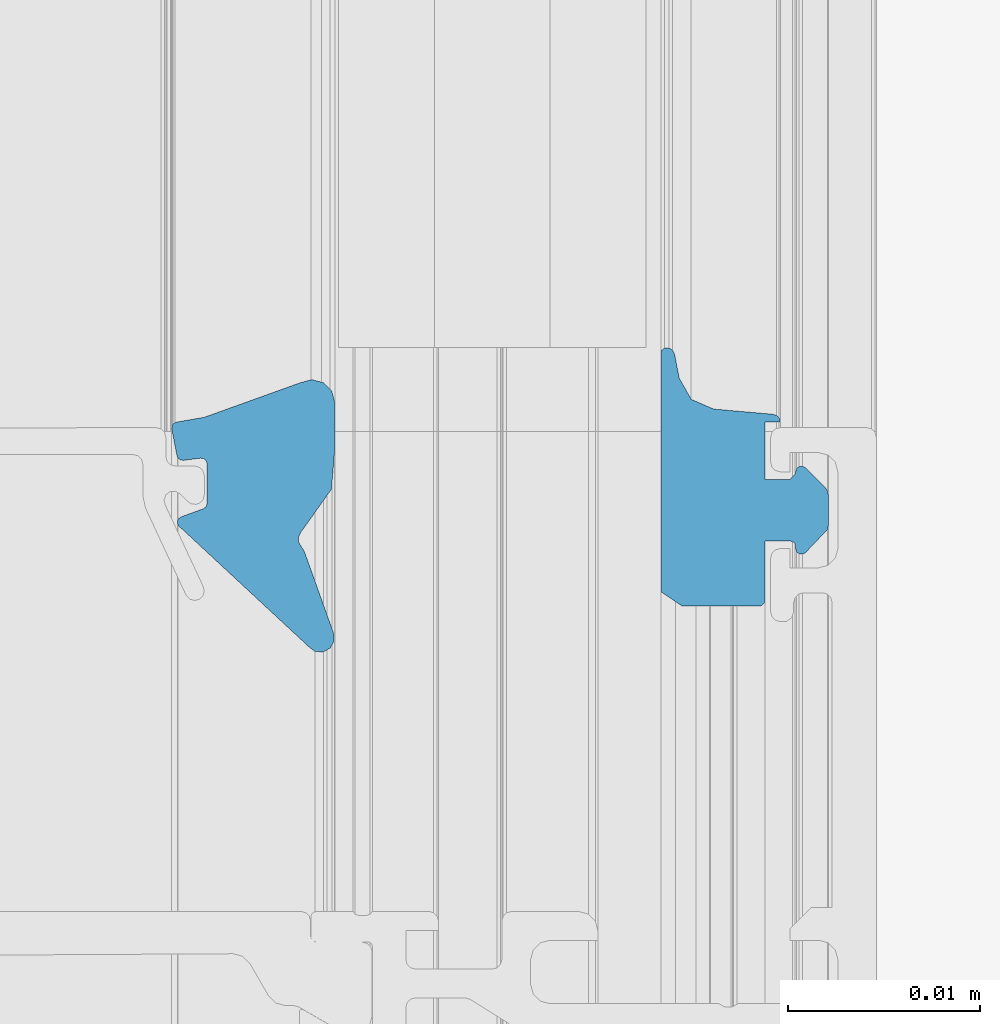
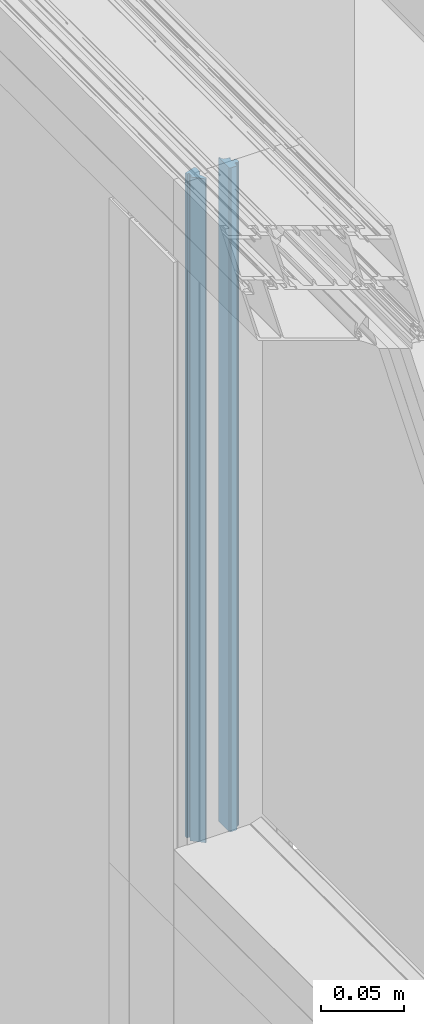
# One storey, part 66 of 89: 1 building element part, 2 elements without a shape of their own.
"""IFC2X3 building model written with IfcOpenShell, lengths in millimetres."""

from ifc_helpers import new_model, entity, si_unit, converted_unit, derived_unit, money_unit, direction, frame, origin_with_axes, place, context, subcontext, project, spatial, faceted_brep, material, type_object, element, aggregate, save


model = new_model("IFC2X3")

# Units and contexts
model_context = context("Model", 3, precision=0.01, world=origin_with_axes(), true_north=direction((0.0, 1.0)))
body_context = subcontext(model_context, "Body", "Model", "MODEL_VIEW")
ifc_project = project(units=[si_unit("LENGTHUNIT", "METRE", prefix="MILLI"), si_unit("AREAUNIT", "SQUARE_METRE"), si_unit("VOLUMEUNIT", "CUBIC_METRE"), converted_unit("PLANEANGLEUNIT", "DEGREE", entity("IfcPlaneAngleMeasure", 0.0174532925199), si_unit("PLANEANGLEUNIT", "RADIAN"), dimensions=[0, 0, 0, 0, 0, 0, 0]), si_unit("SOLIDANGLEUNIT", "STERADIAN"), money_unit("EUR"), converted_unit("TIMEUNIT", "Year", entity("IfcTimeMeasure", 31556926.0), si_unit("TIMEUNIT", "SECOND"), dimensions=[0, 0, 1, 0, 0, 0, 0]), si_unit("MASSUNIT", "GRAM", prefix="KILO"), si_unit("THERMODYNAMICTEMPERATUREUNIT", "DEGREE_CELSIUS"), si_unit("LUMINOUSINTENSITYUNIT", "LUMEN"), si_unit("ENERGYUNIT", "JOULE", prefix="MEGA"), derived_unit("THERMALCONDUCTANCEUNIT", [(si_unit("POWERUNIT", "WATT"), 1), (si_unit("LENGTHUNIT", "METRE"), -1), (si_unit("THERMODYNAMICTEMPERATUREUNIT", "KELVIN"), -1)]), derived_unit("SPECIFICHEATCAPACITYUNIT", [(si_unit("ENERGYUNIT", "JOULE"), 1), (si_unit("MASSUNIT", "GRAM", prefix="KILO"), -1), (si_unit("THERMODYNAMICTEMPERATUREUNIT", "KELVIN"), -1)]), derived_unit("MASSDENSITYUNIT", [(si_unit("MASSUNIT", "GRAM", prefix="KILO"), 1), (si_unit("VOLUMEUNIT", "CUBIC_METRE"), -1)])], contexts=[model_context])

# Site, building, storey
site_placement = place(None, origin_with_axes())
site = spatial("IfcSite", under=ifc_project, at=site_placement, Name="Puškini 31, Narva", CompositionType="ELEMENT")
building_placement = place(site_placement, origin_with_axes())
building = spatial("IfcBuilding", under=site, at=building_placement, Name="Narva Riigigümnaasium", CompositionType="ELEMENT")
storey_placement = place(building_placement, frame((0.0, 0.0, -3300.0), z_axis=(0.0, 0.0, 1.0), x_axis=(1.0, 0.0, 0.0)))
storey = spatial("IfcBuildingStorey", under=building, at=storey_placement, Name="1.korrus -3.3", CompositionType="ELEMENT", Elevation=-3300.0)

# Curtain wall, member, building element part
curtain_wall_type = type_object("IfcCurtainWallType", Name="Curtain Wall Type", PredefinedType="NOTDEFINED")
curtain_wall_placement = place(storey_placement, frame((34855.0104166, 221770.599999, -2.45869391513e-05), z_axis=(0.0, 0.0, 1.0), x_axis=(1.0, 0.0, 0.0)))
curtain_wall = element("IfcCurtainWall", 1, at=curtain_wall_placement, inside=storey, type_object=curtain_wall_type, Name="G-SKLF-08")
member_type = type_object("IfcMemberType", Name="82 x 45", PredefinedType="MULLION")
member_placement = place(curtain_wall_placement, frame((-0.00305436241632, 709.399999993, 2400.00002459), z_axis=(0.0, 0.0, 1.0), x_axis=(4.3055573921e-06, -0.999999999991, 0.0)))
member = element("IfcMember", 2, at=member_placement, type_object=member_type, Name="G-SKLF-08-raam", ObjectType="MULLION")
aggregate(curtain_wall, [member])
ifc_material = material(Name="Membraan - Veekindel")
building_element_part_placement = place(member_placement, origin_with_axes())
building_element_part = element("IfcBuildingElementPart", 3, at=building_element_part_placement, material=ifc_material, Name="Membraan - Veekindel", context=body_context, shape_type="Brep", body=[
    faceted_brep([(-72.7204882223, 15.0100099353, 0.0), (-74.9898926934, 16.6230552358, 0.0), (-74.9898926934, 16.6230552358, 488.835293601), (-72.7204882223, 15.0100099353, 488.835293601), (-72.5011668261, 14.8999349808, 0.0), (-72.2558878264, 14.9074571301, 0.0), (-72.0437237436, 15.0307647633, 0.0), (-71.7536994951, 15.2121692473, 0.0), (-67.4982927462, 16.7341218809, 0.0), (-67.0740702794, 16.7580150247, 0.0), (-66.7049453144, 16.5475813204, 0.0), (-66.5093924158, 16.1703616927, 0.0), (-66.5501763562, 15.7474287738, 0.0), (-66.8142070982, 15.4145273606, 0.0), (-73.0645590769, 8.68581760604, 0.0), (-73.192689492, 8.61180126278, 0.0), (-73.3406152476, 8.60808734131, 0.0), (-73.4722984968, 8.67558063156, 0.0), (-73.5556584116, 8.79783833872, 0.0), (-73.9761212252, 9.95305042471, 0.0), (-74.0859560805, 10.096189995, 0.0), (-74.2580290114, 10.1504443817, 0.0), (-76.3123574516, 10.1504443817, 0.0), (-76.4731258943, 10.1037298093, 0.0), (-76.5838261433, 9.9781344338, 0.0), (-76.6099827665, 9.81277248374, 0.0), (-76.4957458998, 8.91024871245, 0.0), (-76.5142922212, 8.76250903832, 0.0), (-76.601588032, 8.64188392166, 0.0), (-76.7361285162, 8.57808865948, 0.0), (-78.1361285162, 8.30595622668, 0.0), (-78.2917480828, 8.3170330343, 0.0), (-78.4207620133, 8.4047573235, 0.0), (-78.4882789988, 8.54540440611, 0.0), (-78.7418652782, 10.0036443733, 0.0), (-80.5405112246, 15.001346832, 0.0), (-80.7012805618, 15.6006926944, 0.0), (-80.5411647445, 16.2002134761, 0.0), (-80.1029794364, 16.6395947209, 0.0), (-79.5038972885, 16.8013439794, 0.0), (-77.1927259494, 16.806401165, 0.0), (-77.1927259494, 16.806401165, 488.835293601), (-79.5038972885, 16.8013439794, 488.835293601), (-80.1029794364, 16.6395947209, 488.835293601), (-80.5411647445, 16.2002134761, 488.835293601), (-80.7012805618, 15.6006926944, 488.835293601), (-80.5405112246, 15.001346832, 488.835293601), (-78.7418652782, 10.0036443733, 488.835293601), (-78.4882789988, 8.54540440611, 488.835293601), (-78.4207620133, 8.4047573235, 488.835293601), (-78.2917480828, 8.3170330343, 488.835293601), (-78.1361285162, 8.30595622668, 488.835293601), (-76.7361285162, 8.57808865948, 488.835293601), (-76.601588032, 8.64188392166, 488.835293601), (-76.5142922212, 8.76250903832, 488.835293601), (-76.4957458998, 8.91024871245, 488.835293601), (-76.6099827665, 9.81277248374, 488.835293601), (-76.5838261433, 9.9781344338, 488.835293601), (-76.4731258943, 10.1037298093, 488.835293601), (-76.3123574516, 10.1504443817, 488.835293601), (-74.2580290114, 10.1504443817, 488.835293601), (-74.0859560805, 10.096189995, 488.835293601), (-73.9761212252, 9.95305042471, 488.835293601), (-73.5556584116, 8.79783833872, 488.835293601), (-73.4722984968, 8.67558063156, 488.835293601), (-73.3406152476, 8.60808734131, 488.835293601), (-73.192689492, 8.61180126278, 488.835293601), (-73.0645590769, 8.68581760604, 488.835293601), (-66.8142070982, 15.4145273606, 488.835293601), (-66.5501763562, 15.7474287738, 488.835293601), (-66.5093924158, 16.1703616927, 488.835293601), (-66.7049453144, 16.5475813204, 488.835293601), (-67.0740702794, 16.7580150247, 488.835293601), (-67.4982927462, 16.7341218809, 488.835293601), (-71.7536994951, 15.2121692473, 488.835293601), (-72.0437237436, 15.0307647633, 488.835293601), (-72.2558878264, 14.9074571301, 488.835293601), (-72.5011668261, 14.8999349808, 488.835293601)], [[[0, 1, 2, 3]], [[0, 4, 5, 6, 7, 8, 9, 10, 11, 12, 13, 14, 15, 16, 17, 18, 19, 20, 21, 22, 23, 24, 25, 26, 27, 28, 29, 30, 31, 32, 33, 34, 35, 36, 37, 38, 39, 40, 1]], [[1, 40, 41, 2]], [[3, 2, 41, 42, 43, 44, 45, 46, 47, 48, 49, 50, 51, 52, 53, 54, 55, 56, 57, 58, 59, 60, 61, 62, 63, 64, 65, 66, 67, 68, 69, 70, 71, 72, 73, 74, 75, 76, 77]], [[4, 0, 3, 77]], [[5, 4, 77, 76]], [[6, 5, 76, 75]], [[7, 6, 75, 74]], [[8, 7, 74, 73]], [[9, 8, 73, 72]], [[10, 9, 72, 71]], [[11, 10, 71, 70]], [[12, 11, 70, 69]], [[13, 12, 69, 68]], [[14, 13, 68, 67]], [[15, 14, 67, 66]], [[16, 15, 66, 65]], [[17, 16, 65, 64]], [[18, 17, 64, 63]], [[19, 18, 63, 62]], [[20, 19, 62, 61]], [[21, 20, 61, 60]], [[22, 21, 60, 59]], [[23, 22, 59, 58]], [[24, 23, 58, 57]], [[25, 24, 57, 56]], [[26, 25, 56, 55]], [[27, 26, 55, 54]], [[28, 27, 54, 53]], [[29, 28, 53, 52]], [[30, 29, 52, 51]], [[31, 30, 51, 50]], [[32, 31, 50, 49]], [[33, 32, 49, 48]], [[34, 33, 48, 47]], [[35, 34, 47, 46]], [[36, 35, 46, 45]], [[37, 36, 45, 44]], [[38, 37, 44, 43]], [[39, 38, 43, 42]], [[40, 39, 42, 41]]]),
    faceted_brep([(-71.6876987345, 41.3119145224, 0.0), (-72.8904310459, 42.4618935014, 0.0), (-72.8904310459, 42.4618935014, 488.835293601), (-71.6876987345, 41.3119145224, 488.835293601), (-71.6057623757, 41.1582990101, 0.0), (-71.6229356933, 40.9850466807, 0.0), (-71.7334350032, 40.8505059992, 0.0), (-71.900046, 40.799988, 0.0), (-72.00004, 40.799988, 0.0), (-72.15004, 40.7597956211, 0.0), (-72.2598476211, 40.649988, 0.0), (-72.30004, 40.499988, 0.0), (-72.30004, 39.200012, 0.0), (-71.30004, 39.2000007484, 0.0), (-69.2000038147, 39.2000007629, 0.0), (-69.0500179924, 39.159812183, 0.0), (-68.9402207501, 39.0500149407, 0.0), (-68.9000321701, 38.9000291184, 0.0), (-68.8997554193, 34.9006000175, 0.0), (-69.647137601, 33.7902637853, 0.0), (-82.2108941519, 33.7902637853, 0.0), (-82.3423779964, 33.9722990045, 0.0), (-82.3536959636, 34.1965683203, 0.0), (-82.2412066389, 34.3909158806, 0.0), (-82.041102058, 34.4928127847, 0.0), (-80.7800222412, 34.7379988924, 0.0), (-79.6755028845, 35.3629012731, 0.0), (-79.1693613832, 36.5266395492, 0.0), (-78.9000324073, 39.6000097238, 0.0), (-78.8464370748, 39.8000230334, 0.0), (-78.7000161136, 39.9464425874, 0.0), (-78.5000022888, 40.0000359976, 0.0), (-78.5000022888, 39.2000007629, 0.0), (-76.5000210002, 39.200012, 0.0), (-75.500021, 39.200012, 0.0), (-75.500021, 40.499988, 0.0), (-75.800021, 40.799988, 0.0), (-75.9000173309, 40.799988, 0.0), (-76.0666568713, 40.8505228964, 0.0), (-76.1771585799, 40.9851032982, 0.0), (-76.1942964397, 41.1583915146, 0.0), (-76.1122970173, 41.3120098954, 0.0), (-75.0716106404, 42.353428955, 0.0), (-74.9093558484, 42.461906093, 0.0), (-74.717932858, 42.5, 0.0), (-73.0818844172, 42.5, 0.0), (-73.0818844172, 42.5, 488.835293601), (-74.717932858, 42.5, 488.835293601), (-74.9093558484, 42.461906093, 488.835293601), (-75.0716106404, 42.353428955, 488.835293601), (-76.1122970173, 41.3120098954, 488.835293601), (-76.1942964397, 41.1583915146, 488.835293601), (-76.1771585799, 40.9851032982, 488.835293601), (-76.0666568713, 40.8505228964, 488.835293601), (-75.9000173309, 40.799988, 488.835293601), (-75.800021, 40.799988, 488.835293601), (-75.500021, 40.499988, 488.835293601), (-75.500021, 39.200012, 488.835293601), (-76.5000210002, 39.200012, 488.835293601), (-78.5000022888, 39.2000007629, 488.835293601), (-78.5000022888, 40.0000359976, 488.835293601), (-78.7000161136, 39.9464425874, 488.835293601), (-78.8464370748, 39.8000230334, 488.835293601), (-78.9000324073, 39.6000097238, 488.835293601), (-79.1693613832, 36.5266395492, 488.835293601), (-79.6755028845, 35.3629012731, 488.835293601), (-80.7800222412, 34.7379988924, 488.835293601), (-82.041102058, 34.4928127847, 488.835293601), (-82.2412066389, 34.3909158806, 488.835293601), (-82.3536959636, 34.1965683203, 488.835293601), (-82.3423779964, 33.9722990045, 488.835293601), (-82.2108941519, 33.7902637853, 488.835293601), (-69.647137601, 33.7902637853, 488.835293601), (-68.8997554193, 34.9006000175, 488.835293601), (-68.9000321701, 38.9000291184, 488.835293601), (-68.9402207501, 39.0500149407, 488.835293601), (-69.0500179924, 39.159812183, 488.835293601), (-69.2000038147, 39.2000007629, 488.835293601), (-71.30004, 39.2000007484, 488.835293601), (-72.30004, 39.200012, 488.835293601), (-72.30004, 40.499988, 488.835293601), (-72.2598476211, 40.649988, 488.835293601), (-72.15004, 40.7597956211, 488.835293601), (-72.00004, 40.799988, 488.835293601), (-71.900046, 40.799988, 488.835293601), (-71.7334350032, 40.8505059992, 488.835293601), (-71.6229356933, 40.9850466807, 488.835293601), (-71.6057623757, 41.1582990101, 488.835293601)], [[[0, 1, 2, 3]], [[0, 4, 5, 6, 7, 8, 9, 10, 11, 12, 13, 14, 15, 16, 17, 18, 19, 20, 21, 22, 23, 24, 25, 26, 27, 28, 29, 30, 31, 32, 33, 34, 35, 36, 37, 38, 39, 40, 41, 42, 43, 44, 45, 1]], [[1, 45, 46, 2]], [[3, 2, 46, 47, 48, 49, 50, 51, 52, 53, 54, 55, 56, 57, 58, 59, 60, 61, 62, 63, 64, 65, 66, 67, 68, 69, 70, 71, 72, 73, 74, 75, 76, 77, 78, 79, 80, 81, 82, 83, 84, 85, 86, 87]], [[4, 0, 3, 87]], [[5, 4, 87, 86]], [[6, 5, 86, 85]], [[7, 6, 85, 84]], [[8, 7, 84, 83]], [[9, 8, 83, 82]], [[10, 9, 82, 81]], [[11, 10, 81, 80]], [[12, 11, 80, 79]], [[13, 12, 79, 78]], [[14, 13, 78, 77]], [[15, 14, 77, 76]], [[16, 15, 76, 75]], [[17, 16, 75, 74]], [[18, 17, 74, 73]], [[19, 18, 73, 72]], [[20, 19, 72, 71]], [[21, 20, 71, 70]], [[22, 21, 70, 69]], [[23, 22, 69, 68]], [[24, 23, 68, 67]], [[25, 24, 67, 66]], [[26, 25, 66, 65]], [[27, 26, 65, 64]], [[28, 27, 64, 63]], [[29, 28, 63, 62]], [[30, 29, 62, 61]], [[31, 30, 61, 60]], [[32, 31, 60, 59]], [[33, 32, 59, 58]], [[34, 33, 58, 57]], [[35, 34, 57, 56]], [[36, 35, 56, 55]], [[37, 36, 55, 54]], [[38, 37, 54, 53]], [[39, 38, 53, 52]], [[40, 39, 52, 51]], [[41, 40, 51, 50]], [[42, 41, 50, 49]], [[43, 42, 49, 48]], [[44, 43, 48, 47]], [[45, 44, 47, 46]]]),
])
aggregate(member, [building_element_part])

save(model, "model.ifc")
